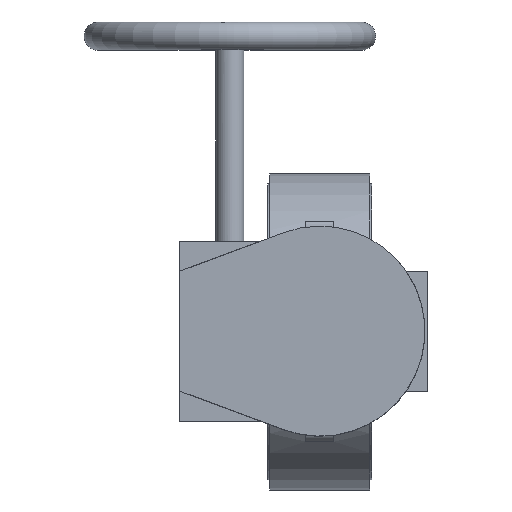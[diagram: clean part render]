
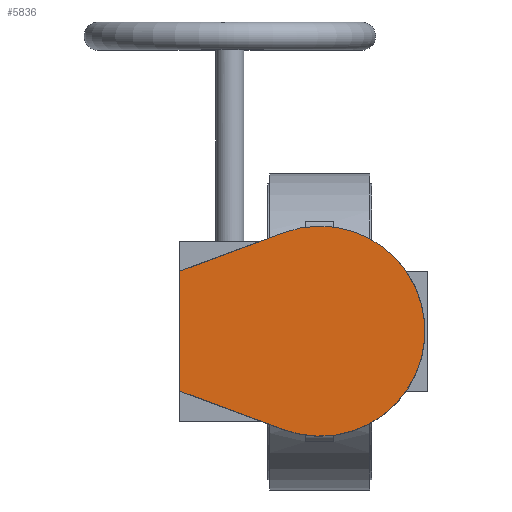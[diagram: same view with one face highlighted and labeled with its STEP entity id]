
A CAD part, top view. The second image highlights one B-rep face of the part: STEP entity #5836.
In plain terms, the highlighted planar face has unit normal (0, 0, 1).
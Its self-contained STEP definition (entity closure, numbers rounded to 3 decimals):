
#5836=ADVANCED_FACE('',(#10635),#10637,.T.);
#10635=FACE_BOUND('',#10636,.T.);
#10636=EDGE_LOOP('',(#14433,#14434,#14435,#14436));
#10637=PLANE('',#10638);
#10638=AXIS2_PLACEMENT_3D('',#10639,#10640,#10641);
#10639=CARTESIAN_POINT('',(0.,0.,245.));
#10640=DIRECTION('',(0.,0.,1.));
#10641=DIRECTION('',(0.,1.,0.));
#14433=ORIENTED_EDGE('',*,*,#16357,.T.);
#14434=ORIENTED_EDGE('',*,*,#16353,.T.);
#14435=ORIENTED_EDGE('',*,*,#16346,.T.);
#14436=ORIENTED_EDGE('',*,*,#16341,.T.);
#16341=EDGE_CURVE('',#19436,#19434,#19437,.T.);
#16346=EDGE_CURVE('',#19444,#19436,#19445,.T.);
#16353=EDGE_CURVE('',#19457,#19444,#19458,.T.);
#16357=EDGE_CURVE('',#19434,#19457,#19463,.T.);
#19434=VERTEX_POINT('',#27795);
#19436=VERTEX_POINT('',#27799);
#19437=LINE('',#27800,#27801);
#19444=VERTEX_POINT('',#27817);
#19445=LINE('',#27818,#27819);
#19457=VERTEX_POINT('',#27844);
#19458=LINE('',#27845,#27846);
#19463=CIRCLE('',#27858,52.5);
#27795=CARTESIAN_POINT('',(-18.284,-49.213,245.));
#27799=CARTESIAN_POINT('',(-70.,-30.,245.));
#27800=CARTESIAN_POINT('',(-70.,-30.,245.));
#27801=VECTOR('',#27802,1.);
#27802=DIRECTION('',(0.937,-0.348,0.));
#27817=CARTESIAN_POINT('',(-70.,30.,245.));
#27818=CARTESIAN_POINT('',(-70.,30.,245.));
#27819=VECTOR('',#27820,1.);
#27820=DIRECTION('',(0.,-1.,0.));
#27844=CARTESIAN_POINT('',(-18.284,49.213,245.));
#27845=CARTESIAN_POINT('',(-18.284,49.213,245.));
#27846=VECTOR('',#27847,1.);
#27847=DIRECTION('',(-0.937,-0.348,0.));
#27858=AXIS2_PLACEMENT_3D('',#27859,#27860,#27861);
#27859=CARTESIAN_POINT('',(0.,0.,245.));
#27860=DIRECTION('',(0.,0.,1.));
#27861=DIRECTION('',(-0.348,-0.937,0.));
